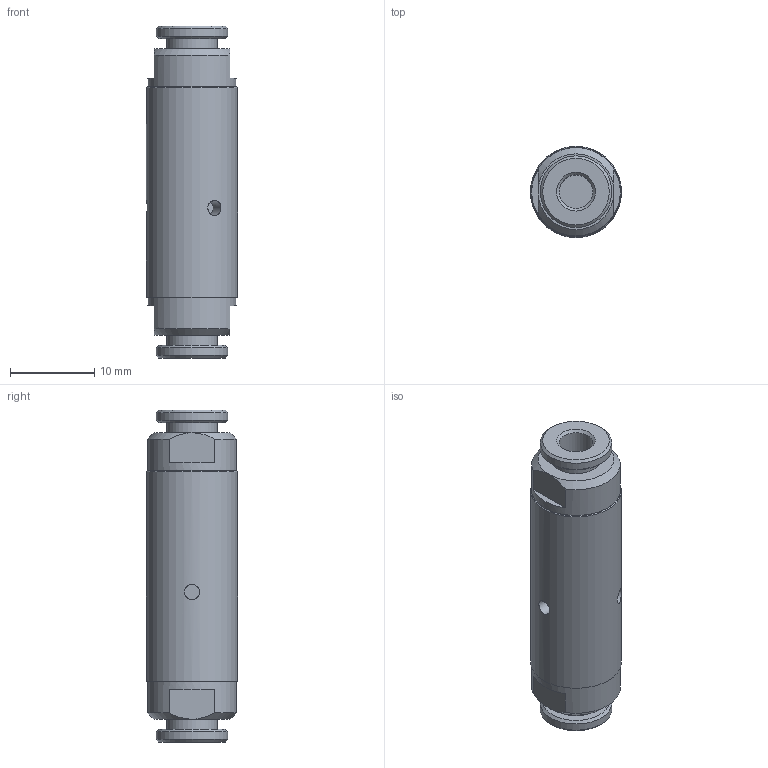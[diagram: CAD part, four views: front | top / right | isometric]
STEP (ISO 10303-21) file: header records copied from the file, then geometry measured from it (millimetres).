
FILE_DESCRIPTION(/* description */ ('VALVOLA S.R. IN T.4 OUT T.4'),/* implementation_level */ '2;1');
FILE_NAME(/* name */ 'I:\Area Tecnica\Disegni\VARIE-3D\Componenti\600\6_02_##_##_L\6_02_04_04_L.stp',/* time_stamp */ '2017-01-20T13:58:55+01:00',/* author */ ('maniean1'),/* organization */ ('Pneumax S.p.A.'),/* preprocessor_version */ 'ST-DEVELOPER v15.2',/* originating_system */ 'Autodesk Inventor 2014',/* authorisation */ '');
FILE_SCHEMA (('AUTOMOTIVE_DESIGN { 1 0 10303 214 3 1 1 }'));
Length unit declared in the file: millimetre
Products named in the file (1): 6_02_04_04_L
Bounding box: 10.8 x 10.8 x 39.4 mm (x, y, z)
Volume: 2921.9 mm3; surface area: 1860.5 mm2
Topology: 1 solids, 1 shells, 44 faces, 82 edges, 51 vertices
Faces by surface type: plane 21, cylinder 12, cone 11
Full cylindrical faces by diameter (mm): 1.8 x3, 4 x2, 6 x2, 8.5 x2, 10.5 x2, 10.8 x1
Entity records: 1092 total; most frequent: CARTESIAN_POINT 270, DIRECTION 178, ORIENTED_EDGE 122, AXIS2_PLACEMENT_3D 83, EDGE_LOOP 74, EDGE_CURVE 61, VERTEX_POINT 49, ADVANCED_FACE 44
